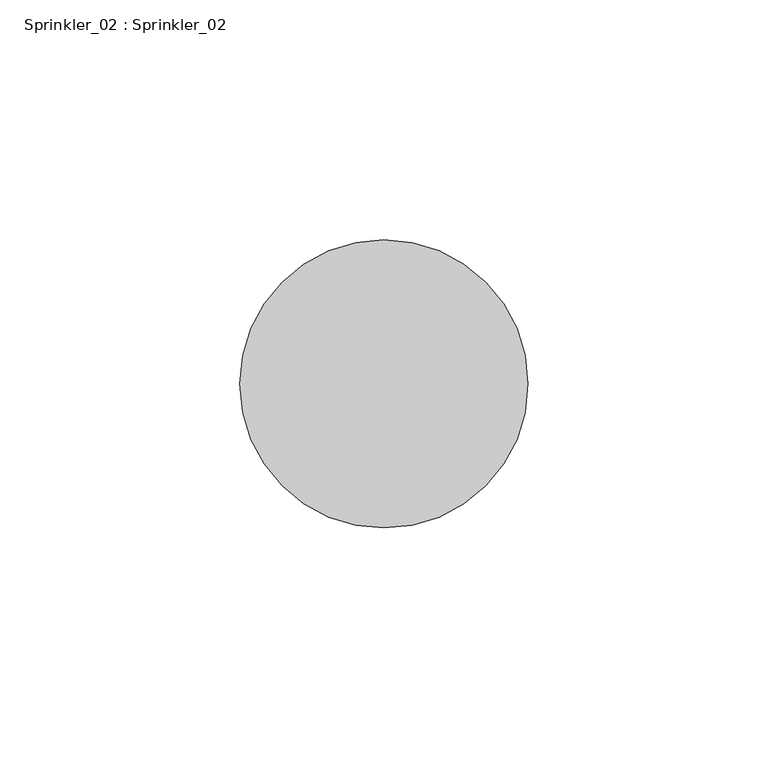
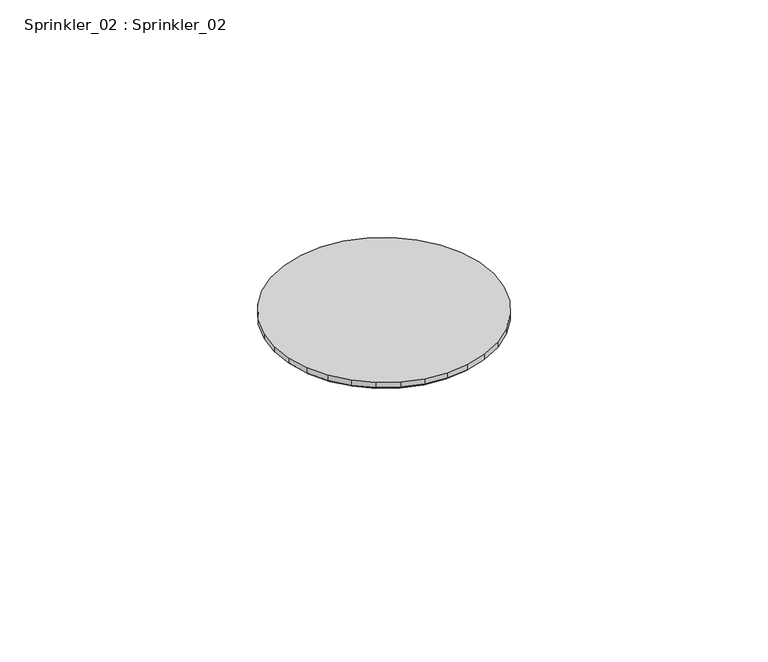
"""IFC4 building model written with IfcOpenShell, lengths in millimetres: fire suppression terminal geometry, Sprinkler_02 : Sprinkler_02."""

from ifc_helpers import new_model, si_unit, frame, origin, place, context, project, spatial, polyline, outline, extrude, faceted_brep, source, transform, mapped, element, save


def sprinkler_02_sprinkler_02_93df4523(model_context):
    return source(origin(), model_context, "Body", "SolidModel", [
        extrude(outline(polyline([(-2.0098133, 10.1040136), (0.0, 10.301963), (2.0098133, 10.1040136), (3.9423905, 9.5177727), (5.723464, 8.5657691), (7.2845879, 7.2845879), (8.5657691, 5.723464), (9.5177727, 3.9423905), (10.1040136, 2.0098133), (10.301963, 0.0), (10.1040136, -2.0098133), (9.5177727, -3.9423905), (8.5657691, -5.723464), (7.2845879, -7.2845879), (5.723464, -8.5657691), (3.9423905, -9.5177727), (2.0098133, -10.1040136), (0.0, -10.301963), (-2.0098133, -10.1040136), (-3.9423905, -9.5177727), (-5.723464, -8.5657691), (-7.2845879, -7.2845879), (-8.5657691, -5.723464), (-9.5177727, -3.9423905), (-10.1040136, -2.0098133), (-10.301963, 0.0), (-10.1040136, 2.0098133), (-9.5177727, 3.9423905), (-8.5657691, 5.723464), (-7.2845879, 7.2845879), (-5.723464, 8.5657691), (-3.9423905, 9.5177727), (-2.0098133, 10.1040136)])), frame((0.0, 0.0, 3986.6870605), z_axis=(0.0, 0.0, 1.0), x_axis=(1.0, 0.0, 0.0)), (0.0, 0.0, 1.0), 7.3880005),
        extrude(outline(polyline([(-2.4026821, 12.0790986), (0.0, 12.3157421), (2.4026821, 12.0790986), (4.7130305, 11.3782621), (6.8422597, 10.2401653), (8.7085448, 8.7085448), (10.2401653, 6.8422597), (11.3782621, 4.7130305), (12.0790986, 2.4026821), (12.3157421, 0.0), (12.0790986, -2.4026821), (11.3782621, -4.7130305), (10.2401653, -6.8422597), (8.7085448, -8.7085448), (6.8422597, -10.2401653), (4.7130305, -11.3782621), (2.4026821, -12.0790986), (0.0, -12.3157421), (-2.4026821, -12.0790986), (-4.7130305, -11.3782621), (-6.8422597, -10.2401653), (-8.7085448, -8.7085448), (-10.2401653, -6.8422597), (-11.3782621, -4.7130305), (-12.0790986, -2.4026821), (-12.3157421, 0.0), (-12.0790986, 2.4026821), (-11.3782621, 4.7130305), (-10.2401653, 6.8422597), (-8.7085448, 8.7085448), (-6.8422597, 10.2401653), (-4.7130305, 11.3782621), (-2.4026821, 12.0790986)])), frame((0.0, 0.0, 3994.075061), z_axis=(0.0, 0.0, 1.0), x_axis=(1.0, 0.0, 0.0)), (0.0, 0.0, 1.0), 2.3651123),
        faceted_brep([(5.7056686, 28.6843332, 3996.4401733), (11.1920716, 27.0200511, 3996.4401733), (16.2483695, 24.3174035, 3996.4401733), (20.6802518, 20.6802518, 3996.4401733), (24.3174035, 16.2483695, 3996.4401733), (27.0200511, 11.1920716, 3996.4401733), (28.6843332, 5.7056686, 3996.4401733), (29.2462925, 0.0, 3996.4401733), (28.6843332, -5.7056686, 3996.4401733), (27.0200511, -11.1920716, 3996.4401733), (24.3174035, -16.2483695, 3996.4401733), (20.6802518, -20.6802518, 3996.4401733), (16.2483695, -24.3174035, 3996.4401733), (11.1920716, -27.0200511, 3996.4401733), (5.7056686, -28.6843332, 3996.4401733), (0.0, -29.2462925, 3996.4401733), (-5.7056686, -28.6843332, 3996.4401733), (-11.1920716, -27.0200511, 3996.4401733), (-16.2483695, -24.3174035, 3996.4401733), (-20.6802518, -20.6802518, 3996.4401733), (-24.3174035, -16.2483695, 3996.4401733), (-27.0200511, -11.1920716, 3996.4401733), (-28.6843332, -5.7056686, 3996.4401733), (-29.2462925, 0.0, 3996.4401733), (-28.6843332, 5.7056686, 3996.4401733), (-27.0200511, 11.1920716, 3996.4401733), (-24.3174035, 16.2483695, 3996.4401733), (-20.6802518, 20.6802518, 3996.4401733), (-16.2483695, 24.3174035, 3996.4401733), (-11.1920716, 27.0200511, 3996.4401733), (-5.7056686, 28.6843332, 3996.4401733), (0.0, 29.2462925, 3996.4401733), (0.0, 29.9998463, 3997.1902954), (5.8526797, 29.4234077, 3997.1902954), (-5.8526797, 29.4234077, 3997.1902954), (-11.4804442, 27.716244, 3997.1902954), (-16.6670216, 24.9439606, 3997.1902954), (-21.2130948, 21.2130948, 3997.1902954), (-24.9439606, 16.6670216, 3997.1902954), (-27.716244, 11.4804442, 3997.1902954), (-29.4234077, 5.8526797, 3997.1902954), (-29.9998463, 0.0, 3997.1902954), (-29.4234077, -5.8526797, 3997.1902954), (-27.716244, -11.4804442, 3997.1902954), (-24.9439606, -16.6670216, 3997.1902954), (-21.2130948, -21.2130948, 3997.1902954), (-16.6670216, -24.9439606, 3997.1902954), (-11.4804442, -27.716244, 3997.1902954), (-5.8526797, -29.4234077, 3997.1902954), (0.0, -29.9998463, 3997.1902954), (5.8526797, -29.4234077, 3997.1902954), (11.4804442, -27.716244, 3997.1902954), (16.6670216, -24.9439606, 3997.1902954), (21.2130948, -21.2130948, 3997.1902954), (24.9439606, -16.6670216, 3997.1902954), (27.716244, -11.4804442, 3997.1902954), (29.4234077, -5.8526797, 3997.1902954), (29.9998463, 0.0, 3997.1902954), (29.4234077, 5.8526797, 3997.1902954), (27.716244, 11.4804442, 3997.1902954), (24.9439606, 16.6670216, 3997.1902954), (21.2130948, 21.2130948, 3997.1902954), (16.6670216, 24.9439606, 3997.1902954), (11.4804442, 27.716244, 3997.1902954), (5.8526797, 29.4234077, 3998.7), (0.0, 29.9998463, 3998.7), (-5.8526797, 29.4234077, 3998.7), (-11.4804442, 27.716244, 3998.7), (-16.6670216, 24.9439606, 3998.7), (-21.2130948, 21.2130948, 3998.7), (-24.9439606, 16.6670216, 3998.7), (-27.716244, 11.4804442, 3998.7), (-29.4234077, 5.8526797, 3998.7), (-29.9998463, 0.0, 3998.7), (-29.4234077, -5.8526797, 3998.7), (-27.716244, -11.4804442, 3998.7), (-24.9439606, -16.6670216, 3998.7), (-21.2130948, -21.2130948, 3998.7), (-16.6670216, -24.9439606, 3998.7), (-11.4804442, -27.716244, 3998.7), (-5.8526797, -29.4234077, 3998.7), (0.0, -29.9998463, 3998.7), (5.8526797, -29.4234077, 3998.7), (11.4804442, -27.716244, 3998.7), (16.6670216, -24.9439606, 3998.7), (21.2130948, -21.2130948, 3998.7), (24.9439606, -16.6670216, 3998.7), (27.716244, -11.4804442, 3998.7), (29.4234077, -5.8526797, 3998.7), (29.9998463, 0.0, 3998.7), (29.4234077, 5.8526797, 3998.7), (27.716244, 11.4804442, 3998.7), (24.9439606, 16.6670216, 3998.7), (21.2130948, 21.2130948, 3998.7), (16.6670216, 24.9439606, 3998.7), (11.4804442, 27.716244, 3998.7)], [[[0, 1, 2, 3, 4, 5, 6, 7, 8, 9, 10, 11, 12, 13, 14, 15, 16, 17, 18, 19, 20, 21, 22, 23, 24, 25, 26, 27, 28, 29, 30, 31]], [[0, 31, 32, 33]], [[31, 30, 34, 32]], [[30, 29, 35, 34]], [[29, 28, 36, 35]], [[28, 27, 37, 36]], [[27, 26, 38, 37]], [[26, 25, 39, 38]], [[25, 24, 40, 39]], [[24, 23, 41, 40]], [[23, 22, 42, 41]], [[22, 21, 43, 42]], [[21, 20, 44, 43]], [[20, 19, 45, 44]], [[19, 18, 46, 45]], [[18, 17, 47, 46]], [[17, 16, 48, 47]], [[16, 15, 49, 48]], [[15, 14, 50, 49]], [[14, 13, 51, 50]], [[13, 12, 52, 51]], [[12, 11, 53, 52]], [[11, 10, 54, 53]], [[10, 9, 55, 54]], [[9, 8, 56, 55]], [[8, 7, 57, 56]], [[7, 6, 58, 57]], [[6, 5, 59, 58]], [[5, 4, 60, 59]], [[4, 3, 61, 60]], [[3, 2, 62, 61]], [[2, 1, 63, 62]], [[1, 0, 33, 63]], [[64, 65, 66, 67, 68, 69, 70, 71, 72, 73, 74, 75, 76, 77, 78, 79, 80, 81, 82, 83, 84, 85, 86, 87, 88, 89, 90, 91, 92, 93, 94, 95]], [[65, 64, 33, 32]], [[66, 65, 32, 34]], [[67, 66, 34, 35]], [[68, 67, 35, 36]], [[69, 68, 36, 37]], [[70, 69, 37, 38]], [[71, 70, 38, 39]], [[72, 71, 39, 40]], [[73, 72, 40, 41]], [[74, 73, 41, 42]], [[75, 74, 42, 43]], [[76, 75, 43, 44]], [[77, 76, 44, 45]], [[78, 77, 45, 46]], [[79, 78, 46, 47]], [[80, 79, 47, 48]], [[81, 80, 48, 49]], [[82, 81, 49, 50]], [[83, 82, 50, 51]], [[84, 83, 51, 52]], [[85, 84, 52, 53]], [[86, 85, 53, 54]], [[87, 86, 54, 55]], [[88, 87, 55, 56]], [[89, 88, 56, 57]], [[90, 89, 57, 58]], [[91, 90, 58, 59]], [[92, 91, 59, 60]], [[93, 92, 60, 61]], [[94, 93, 61, 62]], [[95, 94, 62, 63]], [[64, 95, 63, 33]]]),
    ])


if __name__ == "__main__":
    model = new_model("IFC4")
    model_context = context("Model", 3, world=origin())
    ifc_project = project(units=[si_unit("LENGTHUNIT", "METRE", prefix="MILLI")], contexts=[model_context])
    site = spatial("IfcSite", under=ifc_project)
    building = spatial("IfcBuilding", under=site)
    placement = place(None, origin())
    sprinkler_02_sprinkler_02_shape = sprinkler_02_sprinkler_02_93df4523(model_context)
    element("IfcFireSuppressionTerminal", 1, ObjectType="Sprinkler_02 : Sprinkler_02", at=placement, inside=building, context=model_context, shape_type="MappedRepresentation", body=[
        mapped(sprinkler_02_sprinkler_02_shape, transform((0.0, 0.0, 0.0), x_axis=(1.0, 0.0, 0.0), y_axis=(0.0, 1.0, 0.0), z_axis=(0.0, 0.0, 1.0))),
    ])
    save(model, "model.ifc")
